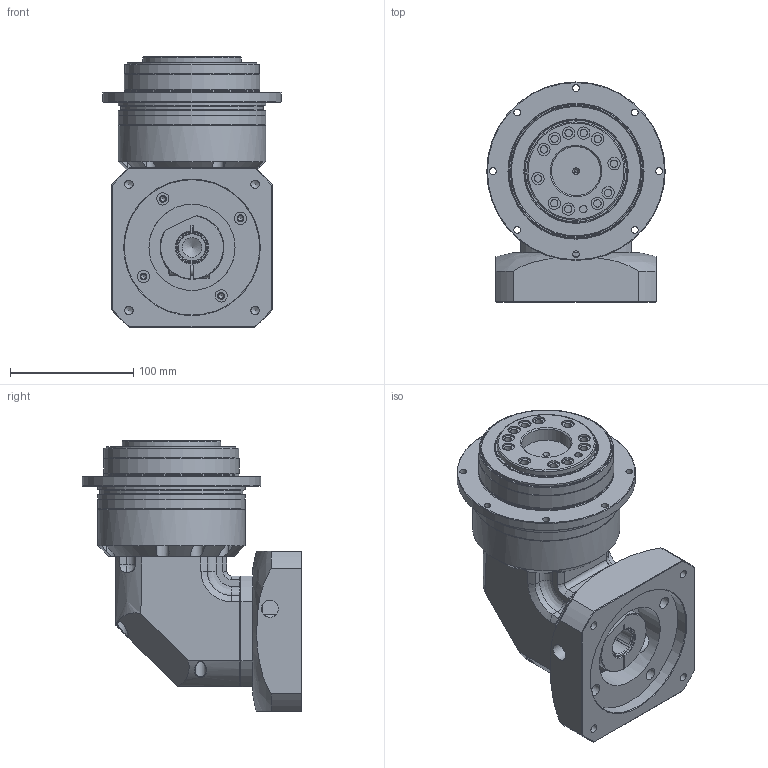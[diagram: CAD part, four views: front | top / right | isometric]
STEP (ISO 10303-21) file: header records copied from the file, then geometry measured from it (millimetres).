
FILE_DESCRIPTION(/* description */ (''),/* implementation_level */ '2;1');
FILE_NAME(/* name */ 'TDR110-L2-22-110-145-M8-72-10.stp',/* time_stamp */ '2021-07-16T15:58:02+08:00',/* author */ (''),/* organization */ (''),/* preprocessor_version */ 'ST-DEVELOPER v16',/* originating_system */ 'SIEMENS PLM Software NX 10.0',/* authorisation */ '');
FILE_SCHEMA (('CONFIG_CONTROL_DESIGN'));
Length unit declared in the file: millimetre
Products named in the file (1): _model716
Bounding box: 145 x 178.5 x 220.01 mm (x, y, z)
Volume: 1676446.4 mm3; surface area: 354390.3 mm2
Topology: 11 solids, 11 shells, 798 faces, 2408 edges, 1538 vertices
Faces by surface type: revolution 267, plane 222, cylinder 187, cone 93, torus 16, bspline 13
Full cylindrical faces by diameter (mm): 2.49 x1, 4.2 x4, 5.5 x16, 6 x12, 6.6 x8, 6.8 x5, 8 x1, 8.5 x1, 9 x4, 10 x15, 13 x2, 13.5 x1, 14 x2, 22 x1, 23 x2, 28.6 x1, 29.2 x1, 30 x2, 33 x1, 40 x1, 42 x1, 43 x1, 45 x1, 53 x1, 55 x1, 58 x1, 62 x2, 64 x1, 66 x1, 68 x1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
Entity records: 32415 total; most frequent: CARTESIAN_POINT 13040, ORIENTED_EDGE 3974, DIRECTION 3624, EDGE_CURVE 1987, AXIS2_PLACEMENT_3D 1537, VERTEX_POINT 1409, EDGE_LOOP 1224, CIRCLE 1008
